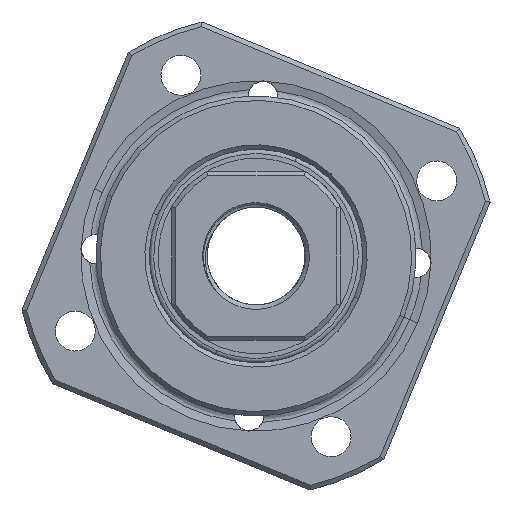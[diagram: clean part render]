
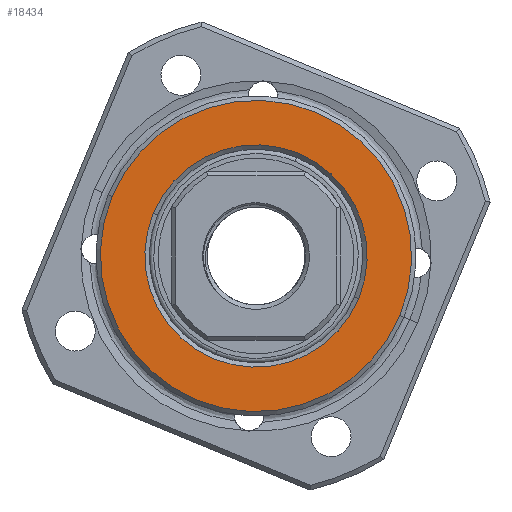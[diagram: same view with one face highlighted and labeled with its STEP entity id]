
A CAD part, left-side view. The second image highlights one B-rep face of the part: STEP entity #18434.
In plain terms, the highlighted planar face has unit normal (-1, 0, 0) as drawn and (1, 0, 0) by its records, which use the part's own axes.
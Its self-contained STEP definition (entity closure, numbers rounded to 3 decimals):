
#3315 = CARTESIAN_POINT ( 'NONE',  ( 23., 0., 0. ) ) ;
#3316 = DIRECTION ( 'NONE',  ( 1., 0., 0. ) ) ;
#3317 = DIRECTION ( 'NONE',  ( 0., 0., 1. ) ) ;
#3341 = CARTESIAN_POINT ( 'NONE',  ( 23., 0., 0. ) ) ;
#3342 = DIRECTION ( 'NONE',  ( 1., 0., 0. ) ) ;
#3343 = DIRECTION ( 'NONE',  ( 0., 0., -1. ) ) ;
#4959 = CIRCLE ( 'NONE', #4966, 12.5 ) ;
#4963 = CIRCLE ( 'NONE', #4969, 17.5 ) ;
#4966 = AXIS2_PLACEMENT_3D ( 'NONE', #6423, #6424, #6425 ) ;
#4969 = AXIS2_PLACEMENT_3D ( 'NONE', #6429, #6430, #6431 ) ;
#6423 = CARTESIAN_POINT ( 'NONE',  ( 23., 0., 0. ) ) ;
#6424 = DIRECTION ( 'NONE',  ( 1., 0., 0. ) ) ;
#6425 = DIRECTION ( 'NONE',  ( 0., 0., -1. ) ) ;
#6429 = CARTESIAN_POINT ( 'NONE',  ( 23., 0., 0. ) ) ;
#6430 = DIRECTION ( 'NONE',  ( 1., 0., 0. ) ) ;
#6431 = DIRECTION ( 'NONE',  ( 0., 0., 1. ) ) ;
#8905 = AXIS2_PLACEMENT_3D ( 'NONE', #10871, #10872, #10873 ) ;
#10870 = PLANE ( 'NONE',  #8905 ) ;
#10871 = CARTESIAN_POINT ( 'NONE',  ( 23., -17.71, -17.71 ) ) ;
#10872 = DIRECTION ( 'NONE',  ( -1., 0., 0. ) ) ;
#10873 = DIRECTION ( 'NONE',  ( 0., 0., 1. ) ) ;
#11271 = FACE_BOUND ( 'NONE', #20183, .T. ) ;
#11272 = FACE_OUTER_BOUND ( 'NONE', #20184, .T. ) ;
#11574 = CARTESIAN_POINT ( 'NONE',  ( 23., 0., 17.5 ) ) ;
#11579 = CARTESIAN_POINT ( 'NONE',  ( 23., 0., -17.5 ) ) ;
#11580 = CARTESIAN_POINT ( 'NONE',  ( 23., 0., -12.5 ) ) ;
#11581 = CARTESIAN_POINT ( 'NONE',  ( 23., 0., 12.5 ) ) ;
#15009 = AXIS2_PLACEMENT_3D ( 'NONE', #3341, #3342, #3343 ) ;
#15016 = CIRCLE ( 'NONE', #15009, 12.5 ) ;
#15024 = AXIS2_PLACEMENT_3D ( 'NONE', #3315, #3316, #3317 ) ;
#15035 = CIRCLE ( 'NONE', #15024, 17.5 ) ;
#15176 = EDGE_CURVE ( 'NONE', #19043, #19038, #15035, .T. ) ;
#15187 = EDGE_CURVE ( 'NONE', #19045, #19044, #15016, .T. ) ;
#17817 = EDGE_CURVE ( 'NONE', #19044, #19045, #4959, .T. ) ;
#17819 = EDGE_CURVE ( 'NONE', #19038, #19043, #4963, .T. ) ;
#18434 = ADVANCED_FACE ( 'NONE', ( #11271, #11272 ), #10870, .F. ) ;
#18944 = ORIENTED_EDGE ( 'NONE', *, *, #17817, .F. ) ;
#18945 = ORIENTED_EDGE ( 'NONE', *, *, #15187, .F. ) ;
#18946 = ORIENTED_EDGE ( 'NONE', *, *, #17819, .T. ) ;
#18948 = ORIENTED_EDGE ( 'NONE', *, *, #15176, .T. ) ;
#19038 = VERTEX_POINT ( 'NONE', #11574 ) ;
#19043 = VERTEX_POINT ( 'NONE', #11579 ) ;
#19044 = VERTEX_POINT ( 'NONE', #11580 ) ;
#19045 = VERTEX_POINT ( 'NONE', #11581 ) ;
#20183 = EDGE_LOOP ( 'NONE', ( #18944, #18945 ) ) ;
#20184 = EDGE_LOOP ( 'NONE', ( #18946, #18948 ) ) ;
